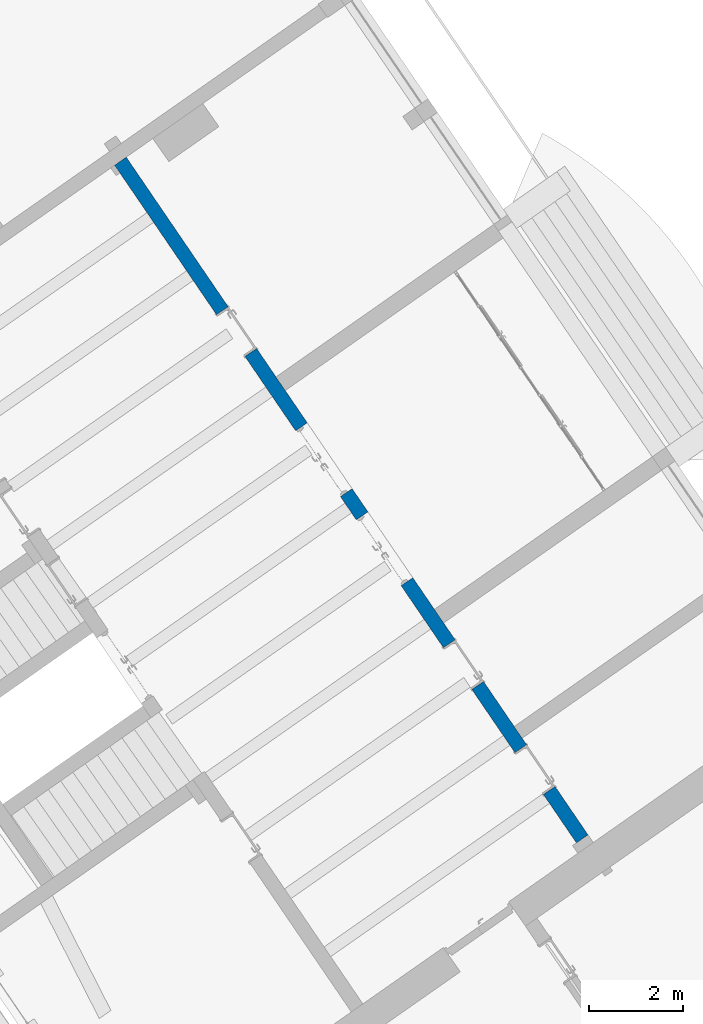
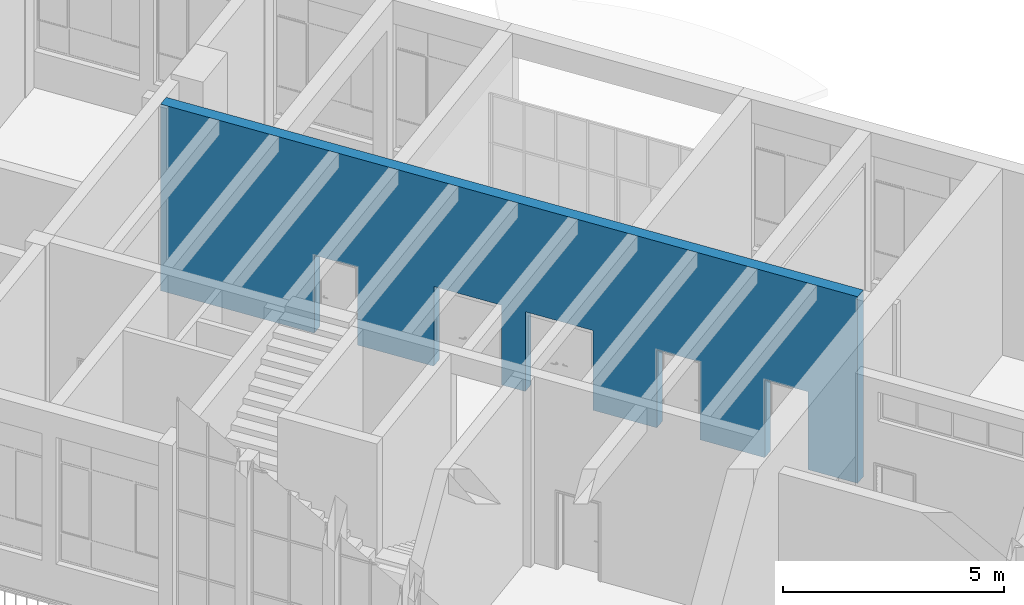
# One storey, part 72 of 157: 1 wall, 5 openings.
"""IFC2X3 building model written with IfcOpenShell, lengths in millimetres."""

from ifc_helpers import new_model, entity, si_unit, converted_unit, derived_unit, direction, frame, frame_2d, origin, place, context, subcontext, project, spatial, polyline, rectangle, outline, extrude, material, layer, layer_set, layer_usage, type_object, element, save


model = new_model("IFC2X3")

# Units and contexts
model_context = context("Model", 3, precision=0.01, world=origin(), true_north=direction((6.123031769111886e-17, 1.0)))
body_context = subcontext(model_context, "Body", "Model", "MODEL_VIEW")
ifc_project = project(units=[si_unit("LENGTHUNIT", "METRE", prefix="MILLI"), si_unit("AREAUNIT", "SQUARE_METRE"), si_unit("VOLUMEUNIT", "CUBIC_METRE"), converted_unit("PLANEANGLEUNIT", "DEGREE", entity("IfcRatioMeasure", 0.017453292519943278), si_unit("PLANEANGLEUNIT", "RADIAN"), dimensions=[0, 0, 0, 0, 0, 0, 0]), si_unit("MASSUNIT", "GRAM", prefix="KILO"), derived_unit("MASSDENSITYUNIT", [(si_unit("MASSUNIT", "GRAM", prefix="KILO"), 1), (si_unit("LENGTHUNIT", "METRE"), -3)]), derived_unit("MOMENTOFINERTIAUNIT", [(si_unit("LENGTHUNIT", "METRE"), 4)]), si_unit("TIMEUNIT", "SECOND"), si_unit("FREQUENCYUNIT", "HERTZ"), si_unit("THERMODYNAMICTEMPERATUREUNIT", "DEGREE_CELSIUS"), derived_unit("THERMALTRANSMITTANCEUNIT", [(si_unit("MASSUNIT", "GRAM", prefix="KILO"), 1), (si_unit("THERMODYNAMICTEMPERATUREUNIT", "KELVIN"), -1), (si_unit("TIMEUNIT", "SECOND"), -3)]), derived_unit("THERMALCONDUCTANCEUNIT", [(si_unit("MASSUNIT", "GRAM", prefix="KILO"), 1), (si_unit("LENGTHUNIT", "METRE"), 1), (si_unit("THERMODYNAMICTEMPERATUREUNIT", "KELVIN"), -1), (si_unit("TIMEUNIT", "SECOND"), -3)]), derived_unit("VOLUMETRICFLOWRATEUNIT", [(si_unit("LENGTHUNIT", "METRE"), 3), (si_unit("TIMEUNIT", "SECOND"), -1)]), derived_unit("MASSFLOWRATEUNIT", [(si_unit("MASSUNIT", "GRAM", prefix="KILO"), 1), (si_unit("TIMEUNIT", "SECOND"), -1)]), derived_unit("ROTATIONALFREQUENCYUNIT", [(si_unit("TIMEUNIT", "SECOND"), -1)]), si_unit("ELECTRICCURRENTUNIT", "AMPERE"), si_unit("ELECTRICVOLTAGEUNIT", "VOLT"), si_unit("POWERUNIT", "WATT"), converted_unit("FORCEUNIT", "KIP", entity("IfcRatioMeasure", 2.088543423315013e-05), si_unit("FORCEUNIT", "NEWTON"), dimensions=[1, 1, -2, 0, 0, 0, 0]), si_unit("ILLUMINANCEUNIT", "LUX"), si_unit("LUMINOUSFLUXUNIT", "LUMEN"), si_unit("LUMINOUSINTENSITYUNIT", "CANDELA"), derived_unit("USERDEFINED", [(si_unit("MASSUNIT", "GRAM", prefix="KILO"), -1), (si_unit("LENGTHUNIT", "METRE"), -2), (si_unit("TIMEUNIT", "SECOND"), 3), (si_unit("LUMINOUSFLUXUNIT", "LUMEN"), 1)]), derived_unit("USERDEFINED", [(si_unit("MASSUNIT", "GRAM", prefix="KILO"), 1), (si_unit("LENGTHUNIT", "METRE"), 3), (si_unit("TIMEUNIT", "SECOND"), -3), (si_unit("ELECTRICCURRENTUNIT", "AMPERE"), -2)]), derived_unit("USERDEFINED", [(si_unit("LENGTHUNIT", "METRE"), 2), (si_unit("TIMEUNIT", "SECOND"), -2)]), derived_unit("SOUNDPOWERUNIT", [(si_unit("MASSUNIT", "GRAM", prefix="KILO"), 1), (si_unit("LENGTHUNIT", "METRE"), 2), (si_unit("TIMEUNIT", "SECOND"), -3)]), derived_unit("SOUNDPRESSUREUNIT", [(si_unit("MASSUNIT", "GRAM", prefix="KILO"), 1), (si_unit("LENGTHUNIT", "METRE"), -1), (si_unit("TIMEUNIT", "SECOND"), -2)]), derived_unit("LINEARVELOCITYUNIT", [(si_unit("LENGTHUNIT", "METRE"), 1), (si_unit("TIMEUNIT", "SECOND"), -1)]), si_unit("PRESSUREUNIT", "PASCAL"), derived_unit("USERDEFINED", [(si_unit("LENGTHUNIT", "METRE"), -2), (si_unit("MASSUNIT", "GRAM", prefix="KILO"), 1), (si_unit("TIMEUNIT", "SECOND"), -2)]), derived_unit("LINEARFORCEUNIT", [(si_unit("MASSUNIT", "GRAM", prefix="KILO"), 1), (si_unit("LENGTHUNIT", "METRE"), 1), (si_unit("TIMEUNIT", "SECOND"), -2), (si_unit("LENGTHUNIT", "METRE"), -1)]), derived_unit("PLANARFORCEUNIT", [(si_unit("MASSUNIT", "GRAM", prefix="KILO"), 1), (si_unit("LENGTHUNIT", "METRE"), 1), (si_unit("TIMEUNIT", "SECOND"), -2), (si_unit("LENGTHUNIT", "METRE"), -2)]), derived_unit("SPECIFICHEATCAPACITYUNIT", [(si_unit("LENGTHUNIT", "METRE"), 2), (si_unit("TIMEUNIT", "SECOND"), -2), (si_unit("THERMODYNAMICTEMPERATUREUNIT", "KELVIN"), -1)]), derived_unit("VAPORPERMEABILITYUNIT", [(si_unit("TIMEUNIT", "SECOND"), 1), (si_unit("LENGTHUNIT", "METRE"), -1)]), derived_unit("DYNAMICVISCOSITYUNIT", [(si_unit("MASSUNIT", "GRAM", prefix="KILO"), 1), (si_unit("LENGTHUNIT", "METRE"), -1), (si_unit("TIMEUNIT", "SECOND"), -1)]), derived_unit("THERMALEXPANSIONCOEFFICIENTUNIT", [(si_unit("THERMODYNAMICTEMPERATUREUNIT", "KELVIN"), -1)])], contexts=[model_context])

# Site, building, storey
site_placement = place(None, frame((0.0, 0.0, 0.0), z_axis=(0.0, 0.0, 1.0), x_axis=(0.8191520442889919, 0.5735764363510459, 0.0)))
site = spatial("IfcSite", under=ifc_project, at=site_placement, Name="Default", CompositionType="ELEMENT")
building_placement = place(site_placement, origin())
building = spatial("IfcBuilding", under=site, at=building_placement, CompositionType="ELEMENT")
storey_placement = place(building_placement, origin())
storey = spatial("IfcBuildingStorey", under=building, at=storey_placement, Name="1.EG +0.00", CompositionType="ELEMENT", Elevation=-4.331468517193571e-12)

# Wall, openings
ifc_material = material(Name="Analytical Wall Surface_CJC")
ifc_layer = layer(ifc_material, 300.0)
ifc_layer_set = layer_set([ifc_layer], Name="Basic Wall:Wand_Innen_30")
ifc_layer_usage = layer_usage(ifc_layer_set, "AXIS2", "NEGATIVE", 150.0)
wall_type = type_object("IfcWallType", Name="Basic Wall:Wand_Innen_30", PredefinedType="STANDARD", material=ifc_layer_set)
wall_placement = place(storey_placement, frame((-211070.57046772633, 104050.68075893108, 0.0), z_axis=(0.0, 0.0, 1.0), x_axis=(0.012729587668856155, 0.9999189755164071, 0.0)))
wall = element("IfcWallStandardCase", 1, at=wall_placement, inside=storey, type_object=wall_type, material=ifc_layer_usage, Name="Basic Wall:Wand_Innen_30", ObjectType="Basic Wall:Wand_Innen_30", context=body_context, shape_type="SweptSolid", body=[
    extrude(outline(polyline([(0.0, -150.0), (17499.005441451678, -150.0), (17495.18625570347, 150.0), (0.0, 150.0), (0.0, -150.0)])), origin(), (0.0, 0.0, 1.0), 5150.000000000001),
])
opening_1_placement = place(wall_placement, frame((2330.0, 150.0, 0.0)))
element("IfcOpeningElement", 2, at=opening_1_placement, cuts=wall, Name="Doors_IntSgl:100x210:1", ObjectType="Opening", context=body_context, shape_type="SweptSolid", body=[
    extrude(rectangle(XDim=2150.000000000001, YDim=1079.9999999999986, at=frame_2d((1075.0000000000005, 539.9999999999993), x_axis=(1.0, 0.0))), frame((0.0, 0.0, 0.0), z_axis=(0.0, -1.0, 0.0), x_axis=(0.0, 0.0, 1.0)), (0.0, 0.0, 1.0), 299.9999999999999),
])
opening_2_placement = place(wall_placement, frame((5039.9927081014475, 150.0, 0.0)))
element("IfcOpeningElement", 3, at=opening_2_placement, cuts=wall, Name="Doors_IntSgl:100x210:1", ObjectType="Opening", context=body_context, shape_type="SweptSolid", body=[
    extrude(rectangle(XDim=2150.000000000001, YDim=1079.9999999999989, at=frame_2d((1075.0000000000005, 539.9999999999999), x_axis=(1.0, 0.0))), frame((0.0, 0.0, 0.0), z_axis=(0.0, -1.0, 0.0), x_axis=(0.0, 0.0, 1.0)), (0.0, 0.0, 1.0), 299.9999999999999),
])
opening_3_placement = place(wall_placement, frame((13638.092708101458, 150.0, 0.0)))
element("IfcOpeningElement", 4, at=opening_3_placement, cuts=wall, Name="Doors_IntSgl:100x210:1", ObjectType="Opening", context=body_context, shape_type="SweptSolid", body=[
    extrude(rectangle(XDim=2150.000000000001, YDim=1079.9999999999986, at=frame_2d((1075.0000000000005, 539.9999999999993), x_axis=(1.0, 0.0))), frame((0.0, 0.0, 0.0), z_axis=(0.0, -1.0, 0.0), x_axis=(0.0, 0.0, 1.0)), (0.0, 0.0, 1.0), 299.9999999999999),
])
opening_4_placement = place(wall_placement, frame((6639.992708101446, -150.0, 0.0)))
element("IfcOpeningElement", 5, at=opening_4_placement, cuts=wall, Name="M_Door-Passage-Double-Flush:160x210:1", ObjectType="Opening", context=body_context, shape_type="SweptSolid", body=[
    extrude(rectangle(XDim=2200.0, YDim=1699.9999999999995, at=frame_2d((1100.0, 849.9999999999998), x_axis=(1.0, 0.0))), frame((0.0, 0.0, 0.0), z_axis=(0.0, 1.0, 0.0), x_axis=(0.0, 0.0, 1.0)), (0.0, 0.0, 1.0), 299.9999999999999),
])
opening_5_placement = place(wall_placement, frame((8939.042708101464, -150.0, 0.0)))
element("IfcOpeningElement", 6, at=opening_5_placement, cuts=wall, Name="M_Door-Passage-Double-Flush:160x210:1", ObjectType="Opening", context=body_context, shape_type="SweptSolid", body=[
    extrude(rectangle(XDim=2200.0, YDim=1699.9999999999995, at=frame_2d((1100.0, 849.9999999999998), x_axis=(1.0, 0.0))), frame((0.0, 0.0, 0.0), z_axis=(0.0, 1.0, 0.0), x_axis=(0.0, 0.0, 1.0)), (0.0, 0.0, 1.0), 299.9999999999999),
])

save(model, "model.ifc")
